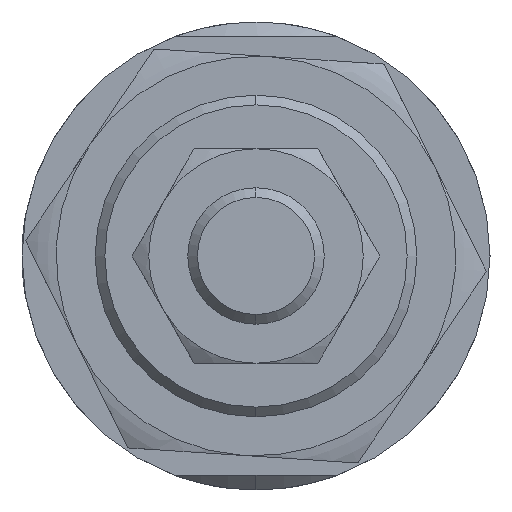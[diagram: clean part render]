
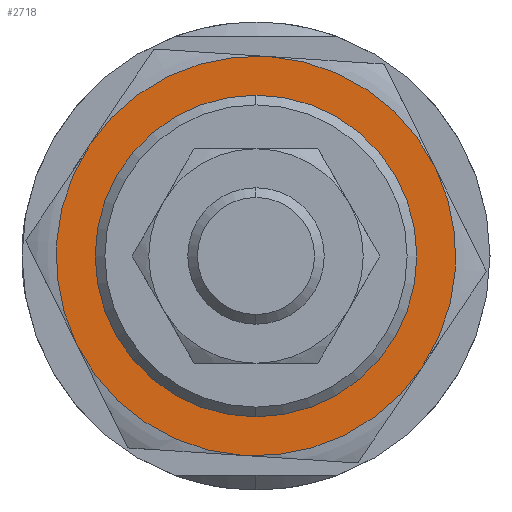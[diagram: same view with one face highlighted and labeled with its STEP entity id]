
A CAD part, left-side view. The second image highlights one B-rep face of the part: STEP entity #2718.
In plain terms, the highlighted planar face has unit normal (-1, 0, 0) as drawn and (0, 0, -1) by its records, which use the part's own axes.
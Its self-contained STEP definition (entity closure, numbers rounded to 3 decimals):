
#42 = AXIS2_PLACEMENT_3D ( 'NONE', #2444, #385, #2666 ) ;
#75 = CARTESIAN_POINT ( 'NONE',  ( 0., 0., -5.5 ) ) ;
#94 = VERTEX_POINT ( 'NONE', #2944 ) ;
#137 = ORIENTED_EDGE ( 'NONE', *, *, #2946, .T. ) ;
#294 = CARTESIAN_POINT ( 'NONE',  ( 10.25, 17.754, -5.5 ) ) ;
#377 = CIRCLE ( 'NONE', #2328, 20.5 ) ;
#385 = DIRECTION ( 'NONE',  ( 0., 0., 1. ) ) ;
#427 = CIRCLE ( 'NONE', #1459, 20.5 ) ;
#445 = CIRCLE ( 'NONE', #1300, 15.5 ) ;
#512 = VERTEX_POINT ( 'NONE', #1966 ) ;
#587 = DIRECTION ( 'NONE',  ( 0., 0., 1. ) ) ;
#613 = AXIS2_PLACEMENT_3D ( 'NONE', #2622, #1174, #3410 ) ;
#641 = VERTEX_POINT ( 'NONE', #1232 ) ;
#644 = VERTEX_POINT ( 'NONE', #1993 ) ;
#675 = DIRECTION ( 'NONE',  ( 1., 0., 0. ) ) ;
#726 = CARTESIAN_POINT ( 'NONE',  ( 0., 0., -5.5 ) ) ;
#740 = CARTESIAN_POINT ( 'NONE',  ( 15.5, 0., -5.5 ) ) ;
#746 = FACE_BOUND ( 'NONE', #1134, .T. ) ;
#767 = CARTESIAN_POINT ( 'NONE',  ( 10.25, -17.754, -5.5 ) ) ;
#783 = ORIENTED_EDGE ( 'NONE', *, *, #1062, .F. ) ;
#953 = EDGE_CURVE ( 'NONE', #512, #644, #1258, .T. ) ;
#1049 = CARTESIAN_POINT ( 'NONE',  ( 0., 0., -5.5 ) ) ;
#1062 = EDGE_CURVE ( 'NONE', #1555, #1784, #377, .T. ) ;
#1134 = EDGE_LOOP ( 'NONE', ( #137, #2932 ) ) ;
#1174 = DIRECTION ( 'NONE',  ( 0., 0., 1. ) ) ;
#1228 = DIRECTION ( 'NONE',  ( 1., 0., 0. ) ) ;
#1232 = CARTESIAN_POINT ( 'NONE',  ( -15.5, 0., -5.5 ) ) ;
#1241 = FACE_OUTER_BOUND ( 'NONE', #3423, .T. ) ;
#1258 = CIRCLE ( 'NONE', #42, 20.5 ) ;
#1300 = AXIS2_PLACEMENT_3D ( 'NONE', #2173, #2228, #675 ) ;
#1459 = AXIS2_PLACEMENT_3D ( 'NONE', #75, #2299, #3198 ) ;
#1476 = AXIS2_PLACEMENT_3D ( 'NONE', #726, #3372, #2085 ) ;
#1491 = ORIENTED_EDGE ( 'NONE', *, *, #2282, .F. ) ;
#1493 = CARTESIAN_POINT ( 'NONE',  ( 0., 0., -5.5 ) ) ;
#1513 = ORIENTED_EDGE ( 'NONE', *, *, #953, .F. ) ;
#1555 = VERTEX_POINT ( 'NONE', #3318 ) ;
#1567 = DIRECTION ( 'NONE',  ( 0., 0., 1. ) ) ;
#1617 = ORIENTED_EDGE ( 'NONE', *, *, #2212, .F. ) ;
#1623 = ORIENTED_EDGE ( 'NONE', *, *, #3123, .F. ) ;
#1690 = DIRECTION ( 'NONE',  ( 1., 0., 0. ) ) ;
#1784 = VERTEX_POINT ( 'NONE', #767 ) ;
#1818 = DIRECTION ( 'NONE',  ( 1., 0., 0. ) ) ;
#1819 = AXIS2_PLACEMENT_3D ( 'NONE', #2364, #1567, #1690 ) ;
#1864 = CIRCLE ( 'NONE', #3079, 20.5 ) ;
#1944 = AXIS2_PLACEMENT_3D ( 'NONE', #2102, #587, #2998 ) ;
#1966 = CARTESIAN_POINT ( 'NONE',  ( -10.25, 17.754, -5.5 ) ) ;
#1993 = CARTESIAN_POINT ( 'NONE',  ( -20.5, 0., -5.5 ) ) ;
#2085 = DIRECTION ( 'NONE',  ( 1., 0., 0. ) ) ;
#2102 = CARTESIAN_POINT ( 'NONE',  ( 0., 0., -5.5 ) ) ;
#2173 = CARTESIAN_POINT ( 'NONE',  ( 0., 0., -5.5 ) ) ;
#2212 = EDGE_CURVE ( 'NONE', #1784, #94, #427, .T. ) ;
#2228 = DIRECTION ( 'NONE',  ( 0., 0., 1. ) ) ;
#2282 = EDGE_CURVE ( 'NONE', #2989, #512, #1864, .T. ) ;
#2292 = EDGE_CURVE ( 'NONE', #94, #2989, #2732, .T. ) ;
#2299 = DIRECTION ( 'NONE',  ( 0., 0., 1. ) ) ;
#2328 = AXIS2_PLACEMENT_3D ( 'NONE', #1049, #3063, #1818 ) ;
#2364 = CARTESIAN_POINT ( 'NONE',  ( 0., 0., -5.5 ) ) ;
#2444 = CARTESIAN_POINT ( 'NONE',  ( 0., 0., -5.5 ) ) ;
#2449 = VERTEX_POINT ( 'NONE', #740 ) ;
#2486 = PLANE ( 'NONE',  #1819 ) ;
#2622 = CARTESIAN_POINT ( 'NONE',  ( 0., 0., -5.5 ) ) ;
#2654 = CIRCLE ( 'NONE', #1944, 15.5 ) ;
#2666 = DIRECTION ( 'NONE',  ( 1., 0., 0. ) ) ;
#2718 = ADVANCED_FACE ( 'NONE', ( #746, #1241 ), #2486, .F. ) ;
#2732 = CIRCLE ( 'NONE', #1476, 20.5 ) ;
#2863 = DIRECTION ( 'NONE',  ( 0., 0., 1. ) ) ;
#2932 = ORIENTED_EDGE ( 'NONE', *, *, #3441, .T. ) ;
#2944 = CARTESIAN_POINT ( 'NONE',  ( 20.5, 0., -5.5 ) ) ;
#2946 = EDGE_CURVE ( 'NONE', #2449, #641, #445, .T. ) ;
#2989 = VERTEX_POINT ( 'NONE', #294 ) ;
#2998 = DIRECTION ( 'NONE',  ( 1., 0., 0. ) ) ;
#3063 = DIRECTION ( 'NONE',  ( 0., 0., 1. ) ) ;
#3079 = AXIS2_PLACEMENT_3D ( 'NONE', #1493, #2863, #1228 ) ;
#3108 = CIRCLE ( 'NONE', #613, 20.5 ) ;
#3123 = EDGE_CURVE ( 'NONE', #644, #1555, #3108, .T. ) ;
#3198 = DIRECTION ( 'NONE',  ( 1., 0., 0. ) ) ;
#3204 = ORIENTED_EDGE ( 'NONE', *, *, #2292, .F. ) ;
#3318 = CARTESIAN_POINT ( 'NONE',  ( -10.25, -17.754, -5.5 ) ) ;
#3372 = DIRECTION ( 'NONE',  ( 0., 0., 1. ) ) ;
#3410 = DIRECTION ( 'NONE',  ( 1., 0., 0. ) ) ;
#3423 = EDGE_LOOP ( 'NONE', ( #3204, #1617, #783, #1623, #1513, #1491 ) ) ;
#3441 = EDGE_CURVE ( 'NONE', #641, #2449, #2654, .T. ) ;
